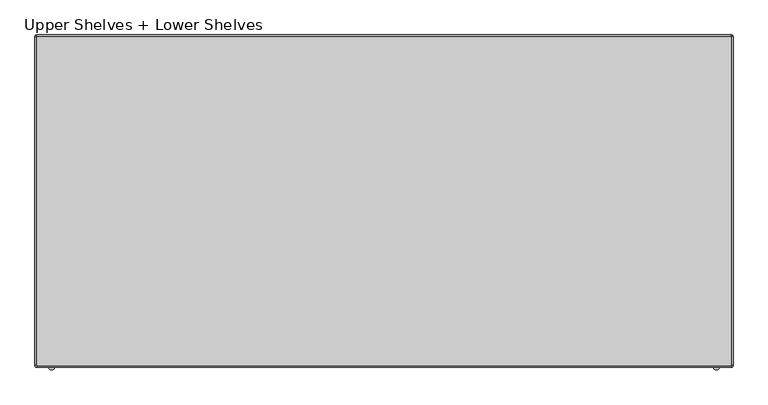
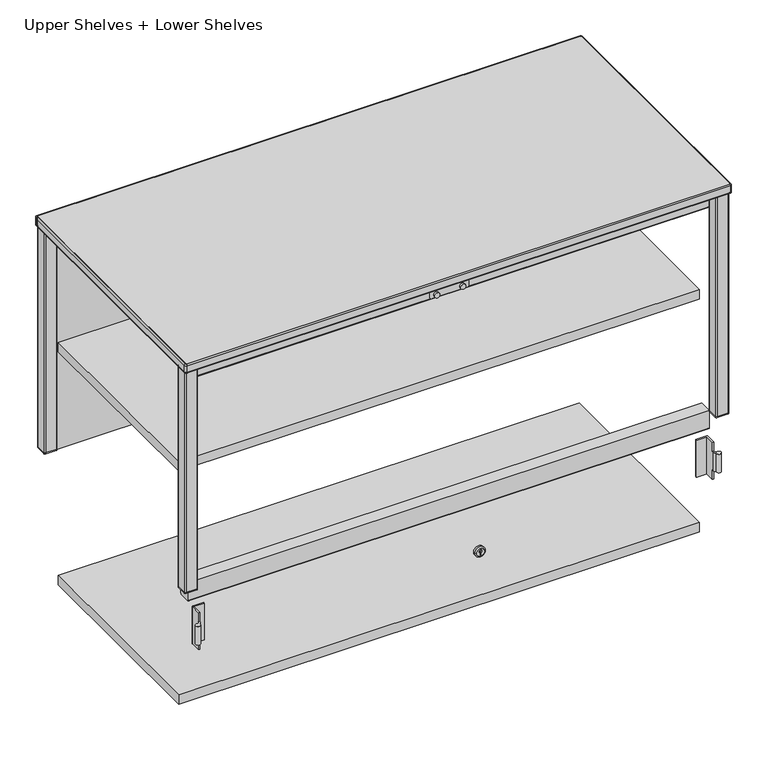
"""IFC4 building model written with IfcOpenShell, lengths in millimetres: furniture geometry, SmithSystem_AM_Storage_Education_Constellate_Stacking_LowMidCluster : Upper Shelves + Lower Shelves."""

from ifc_helpers import new_model, si_unit, point, frame, frame_2d, origin, place, context, project, spatial, polyline, circle_curve, ellipse_curve, trimmed, segment, composite_curve, outline, extrude, source, transform, mapped, element, save
from ifc_brep_helpers import plane_surface, cylinder_surface, revolved_surface, advanced_brep


def upper_shelves_lower_shelves_e5fb00db(model_context):
    return source(origin(), model_context, "Body", "SolidModel", [
        advanced_brep(
        [(-504.0801916, -251.2690212, 723.9), (-500.38, -246.38, 723.9), (-500.38, -245.11, 723.9), (-502.92, -245.11, 723.9), (-502.92, -246.38, 723.9), (-505.46, -248.92, 723.9), (-508.0, -248.92, 723.9), (-504.0801916, -251.2690212, 685.8), (-508.0, -248.92, 685.8), (-505.46, -248.92, 685.8), (-502.92, -246.38, 685.8), (-502.92, -245.11, 685.8), (-500.38, -245.11, 685.8), (-500.38, -246.38, 685.8), (-500.38, -245.11, 666.75), (-500.38, -226.06, 666.75), (-500.38, -226.06, 742.95), (-500.38, -245.11, 742.95), (-502.92, -245.11, 742.95), (-502.92, -226.06, 742.95), (-502.92, -226.06, 666.75), (-502.92, -245.11, 666.75), (-500.38, -223.52, 666.75), (-480.06, -223.52, 666.75), (-480.06, -226.06, 666.75), (-500.38, -223.52, 742.95), (-480.06, -226.06, 742.95), (-480.06, -223.52, 742.95)],
        [
            (0, 1, circle_curve(frame((-505.46, -246.38, 723.9), z_axis=(0.0, 0.0, 1.0), x_axis=(0.0, 1.0, 0.0)), 5.08)),
            (1, 2),
            (2, 3),
            (3, 4),
            (4, 5, circle_curve(frame((-505.46, -246.38, 723.9), z_axis=(0.0, 0.0, -1.0), x_axis=(0.0, 1.0, 0.0)), 2.54)),
            (5, 6),
            (6, 0, circle_curve(frame((-508.0, -253.365, 723.9), z_axis=(0.0, 0.0, 1.0), x_axis=(0.0, 1.0, 0.0)), 4.445)),
            (7, 8, circle_curve(frame((-508.0, -253.365, 685.8), z_axis=(0.0, 0.0, -1.0), x_axis=(0.0, 1.0, 0.0)), 4.445)),
            (8, 9),
            (9, 10, circle_curve(frame((-505.46, -246.38, 685.8), z_axis=(0.0, 0.0, 1.0), x_axis=(0.0, 1.0, 0.0)), 2.54)),
            (10, 11),
            (11, 12),
            (12, 13),
            (13, 7, circle_curve(frame((-505.46, -246.38, 685.8), z_axis=(0.0, 0.0, -1.0), x_axis=(0.0, 1.0, 0.0)), 5.08)),
            (0, 7),
            (13, 1),
            (12, 14),
            (14, 15),
            (15, 16),
            (16, 17),
            (17, 2),
            (10, 4),
            (3, 18),
            (18, 19),
            (19, 20),
            (20, 21),
            (21, 11),
            (9, 5),
            (8, 6),
            (22, 23),
            (23, 24),
            (24, 15),
            (14, 21),
            (20, 22, circle_curve(frame((-500.38, -226.06, 666.75), z_axis=(0.0, 0.0, -1.0), x_axis=(0.0, 1.0, 0.0)), 2.54)),
            (25, 19, circle_curve(frame((-500.38, -226.06, 742.95), z_axis=(0.0, 0.0, 1.0), x_axis=(0.0, 1.0, 0.0)), 2.54)),
            (18, 17),
            (16, 26),
            (26, 27),
            (27, 25),
            (25, 22),
            (24, 26),
            (23, 27),
        ],
        [
            plane_surface(frame((-508.0, -248.92, 723.9), z_axis=(0.0, 0.0, 1.0), x_axis=(-1.0, 0.0, 0.0))),
            plane_surface(frame((-508.0, -248.92, 685.8), z_axis=(0.0, 0.0, -1.0), x_axis=(1.0, 0.0, 0.0))),
            cylinder_surface(frame((-505.46, -246.38, 723.9), z_axis=(0.0, 0.0, -1.0), x_axis=(0.0, 1.0, 0.0)), 5.08),
            plane_surface(frame((-500.38, -236.22, 685.8), z_axis=(1.0, 0.0, 0.0), x_axis=(0.0, 0.0, 1.0))),
            plane_surface(frame((-502.92, -246.38, 685.8), z_axis=(-1.0, 0.0, 0.0), x_axis=(0.0, 0.0, 1.0))),
            revolved_surface(polyline([(-505.46, -243.84, 723.9), (-505.46, -243.84, 685.8)]), (-505.46, -246.38, 723.9), (0.0, 0.0, 1.0)),
            plane_surface(frame((-508.0, -248.92, 685.8), z_axis=(0.0, 1.0, 0.0), x_axis=(0.0, 0.0, 1.0))),
            cylinder_surface(frame((-508.0, -253.365, 723.9), z_axis=(0.0, 0.0, -1.0), x_axis=(0.0, 1.0, 0.0)), 4.445),
            plane_surface(frame((500.38, -223.52, 666.75), z_axis=(0.0, 0.0, -1.0), x_axis=(1.0, 0.0, 0.0))),
            plane_surface(frame((500.38, -223.52, 742.95), z_axis=(0.0, 0.0, 1.0), x_axis=(-1.0, 0.0, 0.0))),
            cylinder_surface(frame((-500.38, -226.06, 685.8), z_axis=(0.0, 0.0, -1.0), x_axis=(0.0, 1.0, 0.0)), 2.54),
            plane_surface(frame((-500.38, -245.11, 666.75), z_axis=(0.0, -1.0, 0.0), x_axis=(0.0, 0.0, 1.0))),
            plane_surface(frame((-480.06, -226.06, 666.75), z_axis=(0.0, -1.0, 0.0), x_axis=(0.0, 0.0, 1.0))),
            plane_surface(frame((-480.06, -223.52, 666.75), z_axis=(1.0, 0.0, 0.0), x_axis=(0.0, 0.0, 1.0))),
            plane_surface(frame((-500.38, -223.52, 666.75), z_axis=(0.0, 1.0, 0.0), x_axis=(0.0, 0.0, 1.0))),
        ],
        [
            (0, [[1, 2, 3, 4, 5, 6, 7]]),
            (1, [[8, 9, 10, 11, 12, 13, 14]]),
            (2, [[-1, 15, -14, 16]]),
            (3, [[-16, -13, 17, 18, 19, 20, 21, -2]]),
            (4, [[22, -4, 23, 24, 25, 26, 27, -11]]),
            (5, [[-5, -22, -10, 28]]),
            (6, [[-6, -28, -9, 29]]),
            (7, [[-7, -29, -8, -15]]),
            (8, [[30, 31, 32, -18, 33, -26, 34]]),
            (9, [[35, -24, 36, -20, 37, 38, 39]]),
            (10, [[-34, -25, -35, 40]]),
            (11, [[-33, -17, -12, -27]]),
            (11, [[-36, -23, -3, -21]]),
            (12, [[-32, 41, -37, -19]]),
            (13, [[-31, 42, -38, -41]]),
            (14, [[-30, -40, -39, -42]]),
        ],
    ),
        advanced_brep(
        [(504.0801916, -251.2690212, 723.9), (508.0, -248.92, 723.9), (505.46, -248.92, 723.9), (502.92, -246.38, 723.9), (502.92, -245.11, 723.9), (500.38, -245.11, 723.9), (500.38, -246.38, 723.9), (504.0801916, -251.2690212, 685.8), (500.38, -246.38, 685.8), (500.38, -245.11, 685.8), (502.92, -245.11, 685.8), (502.92, -246.38, 685.8), (505.46, -248.92, 685.8), (508.0, -248.92, 685.8), (502.92, -245.11, 666.75), (502.92, -226.06, 666.75), (502.92, -226.06, 742.95), (502.92, -245.11, 742.95), (500.38, -245.11, 742.95), (500.38, -226.06, 742.95), (500.38, -226.06, 666.75), (500.38, -245.11, 666.75), (500.38, -223.52, 666.75), (480.06, -226.06, 666.75), (480.06, -223.52, 666.75), (500.38, -223.52, 742.95), (480.06, -223.52, 742.95), (480.06, -226.06, 742.95)],
        [
            (0, 1, circle_curve(frame((508.0, -253.365, 723.9), z_axis=(0.0, 0.0, 1.0), x_axis=(0.0, 1.0, 0.0)), 4.445)),
            (1, 2),
            (2, 3, circle_curve(frame((505.46, -246.38, 723.9), z_axis=(0.0, 0.0, -1.0), x_axis=(0.0, 1.0, 0.0)), 2.54)),
            (3, 4),
            (4, 5),
            (5, 6),
            (6, 0, circle_curve(frame((505.46, -246.38, 723.9), z_axis=(0.0, 0.0, 1.0), x_axis=(0.0, 1.0, 0.0)), 5.08)),
            (7, 8, circle_curve(frame((505.46, -246.38, 685.8), z_axis=(0.0, 0.0, -1.0), x_axis=(0.0, 1.0, 0.0)), 5.08)),
            (8, 9),
            (9, 10),
            (10, 11),
            (11, 12, circle_curve(frame((505.46, -246.38, 685.8), z_axis=(0.0, 0.0, 1.0), x_axis=(0.0, 1.0, 0.0)), 2.54)),
            (12, 13),
            (13, 7, circle_curve(frame((508.0, -253.365, 685.8), z_axis=(0.0, 0.0, -1.0), x_axis=(0.0, 1.0, 0.0)), 4.445)),
            (0, 7),
            (13, 1),
            (12, 2),
            (11, 3),
            (10, 14),
            (14, 15),
            (15, 16),
            (16, 17),
            (17, 4),
            (8, 6),
            (5, 18),
            (18, 19),
            (19, 20),
            (20, 21),
            (21, 9),
            (22, 15, circle_curve(frame((500.38, -226.06, 666.75), z_axis=(0.0, 0.0, -1.0), x_axis=(0.0, 1.0, 0.0)), 2.54)),
            (14, 21),
            (20, 23),
            (23, 24),
            (24, 22),
            (25, 26),
            (26, 27),
            (27, 19),
            (18, 17),
            (16, 25, circle_curve(frame((500.38, -226.06, 742.95), z_axis=(0.0, 0.0, 1.0), x_axis=(0.0, 1.0, 0.0)), 2.54)),
            (24, 26),
            (25, 22),
            (23, 27),
        ],
        [
            plane_surface(frame((-508.0, -248.92, 723.9), z_axis=(0.0, 0.0, 1.0), x_axis=(-1.0, 0.0, 0.0))),
            plane_surface(frame((-508.0, -248.92, 685.8), z_axis=(0.0, 0.0, -1.0), x_axis=(1.0, 0.0, 0.0))),
            cylinder_surface(frame((508.0, -253.365, 666.75), z_axis=(0.0, 0.0, -1.0), x_axis=(0.0, 1.0, 0.0)), 4.445),
            plane_surface(frame((505.46, -248.92, 685.8), z_axis=(0.0, 1.0, 0.0), x_axis=(0.0, 0.0, 1.0))),
            revolved_surface(polyline([(505.46, -243.84, 723.9), (505.46, -243.84, 685.8)]), (505.46, -246.38, 666.75), (0.0, 0.0, 1.0)),
            plane_surface(frame((502.92, -236.22, 685.8), z_axis=(1.0, 0.0, 0.0), x_axis=(0.0, 0.0, 1.0))),
            plane_surface(frame((500.38, -246.38, 685.8), z_axis=(-1.0, 0.0, 0.0), x_axis=(0.0, 0.0, 1.0))),
            cylinder_surface(frame((505.46, -246.38, 666.75), z_axis=(0.0, 0.0, -1.0), x_axis=(0.0, 1.0, 0.0)), 5.08),
            plane_surface(frame((500.38, -223.52, 666.75), z_axis=(0.0, 0.0, -1.0), x_axis=(1.0, 0.0, 0.0))),
            plane_surface(frame((500.38, -223.52, 742.95), z_axis=(0.0, 0.0, 1.0), x_axis=(-1.0, 0.0, 0.0))),
            plane_surface(frame((480.06, -223.52, 666.75), z_axis=(0.0, 1.0, 0.0), x_axis=(0.0, 0.0, 1.0))),
            plane_surface(frame((480.06, -226.06, 666.75), z_axis=(-1.0, 0.0, 0.0), x_axis=(0.0, 0.0, 1.0))),
            plane_surface(frame((500.38, -226.06, 666.75), z_axis=(0.0, -1.0, 0.0), x_axis=(0.0, 0.0, 1.0))),
            plane_surface(frame((502.92, -245.11, 666.75), z_axis=(0.0, -1.0, 0.0), x_axis=(0.0, 0.0, 1.0))),
            cylinder_surface(frame((500.38, -226.06, 742.95), z_axis=(0.0, 0.0, -1.0), x_axis=(0.0, 1.0, 0.0)), 2.54),
        ],
        [
            (0, [[1, 2, 3, 4, 5, 6, 7]]),
            (1, [[8, 9, 10, 11, 12, 13, 14]]),
            (2, [[-1, 15, -14, 16]]),
            (3, [[-2, -16, -13, 17]]),
            (4, [[-3, -17, -12, 18]]),
            (5, [[-18, -11, 19, 20, 21, 22, 23, -4]]),
            (6, [[24, -6, 25, 26, 27, 28, 29, -9]]),
            (7, [[-7, -24, -8, -15]]),
            (8, [[30, -20, 31, -28, 32, 33, 34]]),
            (9, [[35, 36, 37, -26, 38, -22, 39]]),
            (10, [[-34, 40, -35, 41]]),
            (11, [[-33, 42, -36, -40]]),
            (12, [[-32, -27, -37, -42]]),
            (13, [[-31, -19, -10, -29]]),
            (13, [[-38, -25, -5, -23]]),
            (14, [[-30, -41, -39, -21]]),
        ],
    ),
        extrude(outline(composite_curve([segment(trimmed(circle_curve(frame_2d((-218.44, 1212.85)), 2.54), [point((-218.44, 1210.31))], [point((-220.98, 1212.85))], False, "CARTESIAN"), True, "CONTINUOUS"), segment(polyline([(-220.98, 1212.85), (-220.98, 1250.95), (-195.58, 1250.95), (-195.58, 1212.85)]), True, "CONTINUOUS"), segment(trimmed(circle_curve(frame_2d((-198.12, 1212.85)), 2.54), [point((-195.58, 1212.85))], [point((-198.12, 1210.31))], False, "CARTESIAN"), True, "CONTINUOUS"), segment(polyline([(-198.12, 1210.31), (-218.44, 1210.31)]), True, "CONTINUOUS")], self_intersect=False)), frame((-508.0, 0.0, 0.0), z_axis=(1.0, 0.0, 0.0), x_axis=(0.0, 1.0, 0.0)), (0.0, 0.0, 1.0), 1016.0),
        extrude(outline(composite_curve([segment(polyline([(-220.98, 791.21), (-195.58, 791.21), (-195.58, 755.65)]), True, "CONTINUOUS"), segment(trimmed(circle_curve(frame_2d((-198.12, 755.65)), 2.54), [point((-195.58, 755.65))], [point((-198.12, 753.11))], False, "CARTESIAN"), True, "CONTINUOUS"), segment(polyline([(-198.12, 753.11), (-218.44, 753.11)]), True, "CONTINUOUS"), segment(trimmed(circle_curve(frame_2d((-218.44, 755.65)), 2.54), [point((-218.44, 753.11))], [point((-220.98, 755.65))], False, "CARTESIAN"), True, "CONTINUOUS"), segment(polyline([(-220.98, 755.65), (-220.98, 791.21)]), True, "CONTINUOUS")], self_intersect=False)), frame((-508.0, 0.0, 0.0), z_axis=(1.0, 0.0, 0.0), x_axis=(0.0, 1.0, 0.0)), (0.0, 0.0, 1.0), 1016.0),
        extrude(outline(polyline([(508.0, 218.44), (508.0, -187.96), (-508.0, -187.96), (-508.0, 218.44), (508.0, 218.44)])), frame((0.0, 0.0, 521.1191), z_axis=(0.0, 0.0, 1.0), x_axis=(1.0, 0.0, 0.0)), (0.0, 0.0, 1.0), 19.05),
        extrude(outline(polyline([(508.0, 218.44), (508.0, -187.96), (-508.0, -187.96), (-508.0, 218.44), (508.0, 218.44)])), frame((0.0, 0.0, 1002.03), z_axis=(0.0, 0.0, 1.0), x_axis=(1.0, 0.0, 0.0)), (0.0, 0.0, 1.0), 19.05),
        extrude(outline(polyline([(-505.46, 228.6), (-505.46, 247.65), (505.46, 247.65), (505.46, 228.6), (-505.46, 228.6)])), frame((0.0, 0.0, 793.75), z_axis=(0.0, 0.0, 1.0), x_axis=(1.0, 0.0, 0.0)), (0.0, 0.0, 1.0), 457.2),
        extrude(outline(composite_curve([segment(polyline([(-528.32, -223.52), (-508.0, -223.52)]), True, "CONTINUOUS"), segment(trimmed(circle_curve(frame_2d((-508.0, -226.06)), 2.54), [point((-508.0, -223.52))], [point((-505.46, -226.06))], False, "CARTESIAN"), True, "CONTINUOUS"), segment(polyline([(-505.46, -226.06), (-505.46, -246.38)]), True, "CONTINUOUS"), segment(trimmed(circle_curve(frame_2d((-508.0, -246.38)), 2.54), [point((-505.46, -246.38))], [point((-508.0, -248.92))], False, "CARTESIAN"), True, "CONTINUOUS"), segment(polyline([(-508.0, -248.92), (-528.32, -248.92)]), True, "CONTINUOUS"), segment(trimmed(circle_curve(frame_2d((-528.32, -246.38)), 2.54), [point((-528.32, -248.92))], [point((-530.86, -246.38))], False, "CARTESIAN"), True, "CONTINUOUS"), segment(polyline([(-530.86, -246.38), (-530.86, -226.06)]), True, "CONTINUOUS"), segment(trimmed(circle_curve(frame_2d((-528.32, -226.06)), 2.54), [point((-530.86, -226.06))], [point((-528.32, -223.52))], False, "CARTESIAN"), True, "CONTINUOUS")], self_intersect=False)), frame((0.0, 0.0, 796.29), z_axis=(0.0, 0.0, 1.0), x_axis=(1.0, 0.0, 0.0)), (0.0, 0.0, 1.0), 454.66),
        extrude(outline(composite_curve([segment(polyline([(530.86, 248.92), (530.86, 228.6)]), True, "CONTINUOUS"), segment(trimmed(circle_curve(frame_2d((528.32, 228.6)), 2.54), [point((530.86, 228.6))], [point((528.32, 226.06))], False, "CARTESIAN"), True, "CONTINUOUS"), segment(polyline([(528.32, 226.06), (508.0, 226.06)]), True, "CONTINUOUS"), segment(trimmed(circle_curve(frame_2d((508.0, 228.6)), 2.54), [point((508.0, 226.06))], [point((505.46, 228.6))], False, "CARTESIAN"), True, "CONTINUOUS"), segment(polyline([(505.46, 228.6), (505.46, 248.92)]), True, "CONTINUOUS"), segment(trimmed(circle_curve(frame_2d((508.0, 248.92)), 2.54), [point((505.46, 248.92))], [point((508.0, 251.46))], False, "CARTESIAN"), True, "CONTINUOUS"), segment(polyline([(508.0, 251.46), (528.32, 251.46)]), True, "CONTINUOUS"), segment(trimmed(circle_curve(frame_2d((528.32, 248.92)), 2.54), [point((528.32, 251.46))], [point((530.86, 248.92))], False, "CARTESIAN"), True, "CONTINUOUS")], self_intersect=False)), frame((0.0, 0.0, 796.29), z_axis=(0.0, 0.0, 1.0), x_axis=(1.0, 0.0, 0.0)), (0.0, 0.0, 1.0), 454.66),
        extrude(outline(composite_curve([segment(trimmed(circle_curve(frame_2d((528.32, -226.06)), 2.54), [point((528.32, -223.52))], [point((530.86, -226.06))], False, "CARTESIAN"), True, "CONTINUOUS"), segment(polyline([(530.86, -226.06), (530.86, -246.38)]), True, "CONTINUOUS"), segment(trimmed(circle_curve(frame_2d((528.32, -246.38)), 2.54), [point((530.86, -246.38))], [point((528.32, -248.92))], False, "CARTESIAN"), True, "CONTINUOUS"), segment(polyline([(528.32, -248.92), (508.0, -248.92)]), True, "CONTINUOUS"), segment(trimmed(circle_curve(frame_2d((508.0, -246.38)), 2.54), [point((508.0, -248.92))], [point((505.46, -246.38))], False, "CARTESIAN"), True, "CONTINUOUS"), segment(polyline([(505.46, -246.38), (505.46, -226.06)]), True, "CONTINUOUS"), segment(trimmed(circle_curve(frame_2d((508.0, -226.06)), 2.54), [point((505.46, -226.06))], [point((508.0, -223.52))], False, "CARTESIAN"), True, "CONTINUOUS"), segment(polyline([(508.0, -223.52), (528.32, -223.52)]), True, "CONTINUOUS")], self_intersect=False)), frame((0.0, 0.0, 796.29), z_axis=(0.0, 0.0, 1.0), x_axis=(1.0, 0.0, 0.0)), (0.0, 0.0, 1.0), 454.66),
        extrude(outline(composite_curve([segment(trimmed(circle_curve(frame_2d((-528.32, 248.92)), 2.54), [point((-530.86, 248.92))], [point((-528.32, 251.46))], False, "CARTESIAN"), True, "CONTINUOUS"), segment(polyline([(-528.32, 251.46), (-508.0, 251.46)]), True, "CONTINUOUS"), segment(trimmed(circle_curve(frame_2d((-508.0, 248.92)), 2.54), [point((-508.0, 251.46))], [point((-505.46, 248.92))], False, "CARTESIAN"), True, "CONTINUOUS"), segment(polyline([(-505.46, 248.92), (-505.46, 228.6)]), True, "CONTINUOUS"), segment(trimmed(circle_curve(frame_2d((-508.0, 228.6)), 2.54), [point((-505.46, 228.6))], [point((-508.0, 226.06))], False, "CARTESIAN"), True, "CONTINUOUS"), segment(polyline([(-508.0, 226.06), (-528.32, 226.06)]), True, "CONTINUOUS"), segment(trimmed(circle_curve(frame_2d((-528.32, 228.6)), 2.54), [point((-528.32, 226.06))], [point((-530.86, 228.6))], False, "CARTESIAN"), True, "CONTINUOUS"), segment(polyline([(-530.86, 228.6), (-530.86, 248.92)]), True, "CONTINUOUS")], self_intersect=False)), frame((0.0, 0.0, 796.29), z_axis=(0.0, 0.0, 1.0), x_axis=(1.0, 0.0, 0.0)), (0.0, 0.0, 1.0), 454.66),
        extrude(outline(composite_curve([segment(polyline([(-528.32, -223.52), (-508.0, -223.52)]), True, "CONTINUOUS"), segment(trimmed(circle_curve(frame_2d((-508.0, -226.06)), 2.54), [point((-508.0, -223.52))], [point((-505.46, -226.06))], False, "CARTESIAN"), True, "CONTINUOUS"), segment(polyline([(-505.46, -226.06), (-505.46, -246.38)]), True, "CONTINUOUS"), segment(trimmed(circle_curve(frame_2d((-508.0, -246.38)), 2.54), [point((-505.46, -246.38))], [point((-508.0, -248.92))], False, "CARTESIAN"), True, "CONTINUOUS"), segment(polyline([(-508.0, -248.92), (-528.32, -248.92)]), True, "CONTINUOUS"), segment(trimmed(circle_curve(frame_2d((-528.32, -246.38)), 2.54), [point((-528.32, -248.92))], [point((-530.86, -246.38))], False, "CARTESIAN"), True, "CONTINUOUS"), segment(polyline([(-530.86, -246.38), (-530.86, -226.06)]), True, "CONTINUOUS"), segment(trimmed(circle_curve(frame_2d((-528.32, -226.06)), 2.54), [point((-530.86, -226.06))], [point((-528.32, -223.52))], False, "CARTESIAN"), True, "CONTINUOUS")], self_intersect=False)), frame((0.0, 0.0, 793.75), z_axis=(0.0, 0.0, 1.0), x_axis=(1.0, 0.0, 0.0)), (0.0, 0.0, 1.0), 2.54),
        extrude(outline(composite_curve([segment(polyline([(530.86, 248.92), (530.86, 228.6)]), True, "CONTINUOUS"), segment(trimmed(circle_curve(frame_2d((528.32, 228.6)), 2.54), [point((530.86, 228.6))], [point((528.32, 226.06))], False, "CARTESIAN"), True, "CONTINUOUS"), segment(polyline([(528.32, 226.06), (508.0, 226.06)]), True, "CONTINUOUS"), segment(trimmed(circle_curve(frame_2d((508.0, 228.6)), 2.54), [point((508.0, 226.06))], [point((505.46, 228.6))], False, "CARTESIAN"), True, "CONTINUOUS"), segment(polyline([(505.46, 228.6), (505.46, 248.92)]), True, "CONTINUOUS"), segment(trimmed(circle_curve(frame_2d((508.0, 248.92)), 2.54), [point((505.46, 248.92))], [point((508.0, 251.46))], False, "CARTESIAN"), True, "CONTINUOUS"), segment(polyline([(508.0, 251.46), (528.32, 251.46)]), True, "CONTINUOUS"), segment(trimmed(circle_curve(frame_2d((528.32, 248.92)), 2.54), [point((528.32, 251.46))], [point((530.86, 248.92))], False, "CARTESIAN"), True, "CONTINUOUS")], self_intersect=False)), frame((0.0, 0.0, 793.75), z_axis=(0.0, 0.0, 1.0), x_axis=(1.0, 0.0, 0.0)), (0.0, 0.0, 1.0), 2.54),
        extrude(outline(composite_curve([segment(trimmed(circle_curve(frame_2d((528.32, -226.06)), 2.54), [point((528.32, -223.52))], [point((530.86, -226.06))], False, "CARTESIAN"), True, "CONTINUOUS"), segment(polyline([(530.86, -226.06), (530.86, -246.38)]), True, "CONTINUOUS"), segment(trimmed(circle_curve(frame_2d((528.32, -246.38)), 2.54), [point((530.86, -246.38))], [point((528.32, -248.92))], False, "CARTESIAN"), True, "CONTINUOUS"), segment(polyline([(528.32, -248.92), (508.0, -248.92)]), True, "CONTINUOUS"), segment(trimmed(circle_curve(frame_2d((508.0, -246.38)), 2.54), [point((508.0, -248.92))], [point((505.46, -246.38))], False, "CARTESIAN"), True, "CONTINUOUS"), segment(polyline([(505.46, -246.38), (505.46, -226.06)]), True, "CONTINUOUS"), segment(trimmed(circle_curve(frame_2d((508.0, -226.06)), 2.54), [point((505.46, -226.06))], [point((508.0, -223.52))], False, "CARTESIAN"), True, "CONTINUOUS"), segment(polyline([(508.0, -223.52), (528.32, -223.52)]), True, "CONTINUOUS")], self_intersect=False)), frame((0.0, 0.0, 793.75), z_axis=(0.0, 0.0, 1.0), x_axis=(1.0, 0.0, 0.0)), (0.0, 0.0, 1.0), 2.54),
        extrude(outline(composite_curve([segment(trimmed(circle_curve(frame_2d((-528.32, 248.92)), 2.54), [point((-530.86, 248.92))], [point((-528.32, 251.46))], False, "CARTESIAN"), True, "CONTINUOUS"), segment(polyline([(-528.32, 251.46), (-508.0, 251.46)]), True, "CONTINUOUS"), segment(trimmed(circle_curve(frame_2d((-508.0, 248.92)), 2.54), [point((-508.0, 251.46))], [point((-505.46, 248.92))], False, "CARTESIAN"), True, "CONTINUOUS"), segment(polyline([(-505.46, 248.92), (-505.46, 228.6)]), True, "CONTINUOUS"), segment(trimmed(circle_curve(frame_2d((-508.0, 228.6)), 2.54), [point((-505.46, 228.6))], [point((-508.0, 226.06))], False, "CARTESIAN"), True, "CONTINUOUS"), segment(polyline([(-508.0, 226.06), (-528.32, 226.06)]), True, "CONTINUOUS"), segment(trimmed(circle_curve(frame_2d((-528.32, 228.6)), 2.54), [point((-528.32, 226.06))], [point((-530.86, 228.6))], False, "CARTESIAN"), True, "CONTINUOUS"), segment(polyline([(-530.86, 228.6), (-530.86, 248.92)]), True, "CONTINUOUS")], self_intersect=False)), frame((0.0, 0.0, 793.75), z_axis=(0.0, 0.0, 1.0), x_axis=(1.0, 0.0, 0.0)), (0.0, 0.0, 1.0), 2.54),
        extrude(outline(composite_curve([segment(polyline([(-530.86, -250.952), (-530.86, 250.952)]), True, "CONTINUOUS"), segment(trimmed(circle_curve(frame_2d((-530.352, 250.952)), 0.508), [point((-530.86, 250.952))], [point((-530.352, 251.46))], False, "CARTESIAN"), True, "CONTINUOUS"), segment(polyline([(-530.352, 251.46), (530.352, 251.46)]), True, "CONTINUOUS"), segment(trimmed(circle_curve(frame_2d((530.352, 250.952)), 0.508), [point((530.352, 251.46))], [point((530.86, 250.952))], False, "CARTESIAN"), True, "CONTINUOUS"), segment(polyline([(530.86, 250.952), (530.86, -250.952)]), True, "CONTINUOUS"), segment(trimmed(circle_curve(frame_2d((530.352, -250.952)), 0.508), [point((530.86, -250.952))], [point((530.352, -251.46))], False, "CARTESIAN"), True, "CONTINUOUS"), segment(polyline([(530.352, -251.46), (-530.352, -251.46)]), True, "CONTINUOUS"), segment(trimmed(circle_curve(frame_2d((-530.352, -250.952)), 0.508), [point((-530.352, -251.46))], [point((-530.86, -250.952))], False, "CARTESIAN"), True, "CONTINUOUS")], self_intersect=False)), frame((0.0, 0.0, 1250.95), z_axis=(0.0, 0.0, 1.0), x_axis=(1.0, 0.0, 0.0)), (0.0, 0.0, 1.0), 19.05),
        advanced_brep(
        [(-530.352, -251.46, 1270.0), (-530.86, -250.952, 1270.0), (-533.4, -250.952, 1267.46), (-530.352, -254.0, 1267.46), (-530.352, -251.46, 1250.95), (-530.86, -250.952, 1250.95), (-530.352, -254.0, 1253.49), (-533.4, -250.952, 1253.49), (530.352, -254.0, 1267.46), (530.352, -251.46, 1270.0), (530.352, -251.46, 1250.95), (530.352, -254.0, 1253.49), (530.86, -250.952, 1270.0), (533.4, -250.952, 1267.46), (530.86, -250.952, 1250.95), (533.4, -250.952, 1253.49), (533.4, 250.952, 1267.46), (530.86, 250.952, 1270.0), (530.86, 250.952, 1250.95), (533.4, 250.952, 1253.49), (530.352, 251.46, 1270.0), (530.352, 254.0, 1267.46), (530.352, 251.46, 1250.95), (530.352, 254.0, 1253.49), (-530.352, 254.0, 1267.46), (-530.352, 251.46, 1270.0), (-530.352, 251.46, 1250.95), (-530.352, 254.0, 1253.49), (-530.86, 250.952, 1270.0), (-533.4, 250.952, 1267.46), (-530.86, 250.952, 1250.95), (-533.4, 250.952, 1253.49)],
        [
            (0, 1, circle_curve(frame((-530.352, -250.952, 1270.0), z_axis=(0.0, 0.0, -1.0), x_axis=(-1.0, 0.0, 0.0)), 0.508)),
            (1, 2, circle_curve(frame((-530.86, -250.952, 1267.46), z_axis=(0.0, -1.0, 0.0), x_axis=(1.0, 0.0, 0.0)), 2.54)),
            (2, 3, circle_curve(frame((-530.352, -250.952, 1267.46), z_axis=(0.0, 0.0, 1.0), x_axis=(-1.0, 0.0, 0.0)), 3.048)),
            (3, 0, circle_curve(frame((-530.352, -251.46, 1267.46), z_axis=(-1.0, 0.0, 0.0), x_axis=(0.0, 1.0, 0.0)), 2.54)),
            (4, 5, circle_curve(frame((-530.352, -250.952, 1250.95), z_axis=(0.0, 0.0, -1.0), x_axis=(-1.0, 0.0, 0.0)), 0.508)),
            (5, 1),
            (0, 4),
            (6, 7, circle_curve(frame((-530.352, -250.952, 1253.49), z_axis=(0.0, 0.0, -1.0), x_axis=(-1.0, 0.0, 0.0)), 3.048)),
            (7, 5, circle_curve(frame((-530.86, -250.952, 1253.49), z_axis=(0.0, -1.0, 0.0), x_axis=(1.0, 0.0, 0.0)), 2.54)),
            (4, 6, circle_curve(frame((-530.352, -251.46, 1253.49), z_axis=(-1.0, 0.0, 0.0), x_axis=(0.0, 1.0, 0.0)), 2.54)),
            (2, 7),
            (6, 3),
            (3, 8),
            (8, 9, circle_curve(frame((530.352, -251.46, 1267.46), z_axis=(-1.0, 0.0, 0.0), x_axis=(0.0, 1.0, 0.0)), 2.54)),
            (9, 0),
            (9, 10),
            (10, 4),
            (10, 11, circle_curve(frame((530.352, -251.46, 1253.49), z_axis=(-1.0, 0.0, 0.0), x_axis=(0.0, 1.0, 0.0)), 2.54)),
            (11, 6),
            (11, 8),
            (12, 9, circle_curve(frame((530.352, -250.952, 1270.0), z_axis=(0.0, 0.0, -1.0), x_axis=(0.0, -1.0, 0.0)), 0.508)),
            (8, 13, circle_curve(frame((530.352, -250.952, 1267.46), z_axis=(0.0, 0.0, 1.0), x_axis=(0.0, -1.0, 0.0)), 3.048)),
            (13, 12, circle_curve(frame((530.86, -250.952, 1267.46), z_axis=(0.0, -1.0, 0.0), x_axis=(-1.0, 0.0, 0.0)), 2.54)),
            (14, 10, circle_curve(frame((530.352, -250.952, 1250.95), z_axis=(0.0, 0.0, -1.0), x_axis=(0.0, -1.0, 0.0)), 0.508)),
            (12, 14),
            (15, 11, circle_curve(frame((530.352, -250.952, 1253.49), z_axis=(0.0, 0.0, -1.0), x_axis=(0.0, -1.0, 0.0)), 3.048)),
            (14, 15, circle_curve(frame((530.86, -250.952, 1253.49), z_axis=(0.0, -1.0, 0.0), x_axis=(-1.0, 0.0, 0.0)), 2.54)),
            (15, 13),
            (13, 16),
            (16, 17, circle_curve(frame((530.86, 250.952, 1267.46), z_axis=(0.0, -1.0, 0.0), x_axis=(-1.0, 0.0, 0.0)), 2.54)),
            (17, 12),
            (17, 18),
            (18, 14),
            (18, 19, circle_curve(frame((530.86, 250.952, 1253.49), z_axis=(0.0, -1.0, 0.0), x_axis=(-1.0, 0.0, 0.0)), 2.54)),
            (19, 15),
            (19, 16),
            (20, 17, circle_curve(frame((530.352, 250.952, 1270.0), z_axis=(0.0, 0.0, -1.0), x_axis=(1.0, 0.0, 0.0)), 0.508)),
            (16, 21, circle_curve(frame((530.352, 250.952, 1267.46), z_axis=(0.0, 0.0, 1.0), x_axis=(1.0, 0.0, 0.0)), 3.048)),
            (21, 20, circle_curve(frame((530.352, 251.46, 1267.46), z_axis=(1.0, 0.0, 0.0), x_axis=(0.0, -1.0, 0.0)), 2.54)),
            (22, 18, circle_curve(frame((530.352, 250.952, 1250.95), z_axis=(0.0, 0.0, -1.0), x_axis=(1.0, 0.0, 0.0)), 0.508)),
            (20, 22),
            (23, 19, circle_curve(frame((530.352, 250.952, 1253.49), z_axis=(0.0, 0.0, -1.0), x_axis=(1.0, 0.0, 0.0)), 3.048)),
            (22, 23, circle_curve(frame((530.352, 251.46, 1253.49), z_axis=(1.0, 0.0, 0.0), x_axis=(0.0, -1.0, 0.0)), 2.54)),
            (23, 21),
            (21, 24),
            (24, 25, circle_curve(frame((-530.352, 251.46, 1267.46), z_axis=(1.0, 0.0, 0.0), x_axis=(0.0, -1.0, 0.0)), 2.54)),
            (25, 20),
            (25, 26),
            (26, 22),
            (26, 27, circle_curve(frame((-530.352, 251.46, 1253.49), z_axis=(1.0, 0.0, 0.0), x_axis=(0.0, -1.0, 0.0)), 2.54)),
            (27, 23),
            (27, 24),
            (28, 25, circle_curve(frame((-530.352, 250.952, 1270.0), z_axis=(0.0, 0.0, -1.0), x_axis=(0.0, 1.0, 0.0)), 0.508)),
            (24, 29, circle_curve(frame((-530.352, 250.952, 1267.46), z_axis=(0.0, 0.0, 1.0), x_axis=(0.0, 1.0, 0.0)), 3.048)),
            (29, 28, circle_curve(frame((-530.86, 250.952, 1267.46), z_axis=(0.0, 1.0, 0.0), x_axis=(1.0, 0.0, 0.0)), 2.54)),
            (30, 26, circle_curve(frame((-530.352, 250.952, 1250.95), z_axis=(0.0, 0.0, -1.0), x_axis=(0.0, 1.0, 0.0)), 0.508)),
            (28, 30),
            (31, 27, circle_curve(frame((-530.352, 250.952, 1253.49), z_axis=(0.0, 0.0, -1.0), x_axis=(0.0, 1.0, 0.0)), 3.048)),
            (30, 31, circle_curve(frame((-530.86, 250.952, 1253.49), z_axis=(0.0, 1.0, 0.0), x_axis=(1.0, 0.0, 0.0)), 2.54)),
            (31, 29),
            (29, 2),
            (1, 28),
            (5, 30),
            (7, 31),
        ],
        [
            revolved_surface(trimmed(ellipse_curve(frame((-530.86, -250.952, 1267.46), z_axis=(0.0, 1.0, 0.0), x_axis=(1.0, 0.0, 0.0)), 2.54, 2.54), [point((-533.4, -250.952, 1267.46))], [point((-530.86, -250.952, 1270.0))], True, "CARTESIAN"), (-530.352, -250.952, 0.0), (0.0, 0.0, 1.0)),
            revolved_surface(polyline([(-530.86, -250.952, 1270.0), (-530.86, -250.952, 1250.95)]), (-530.352, -250.952, 0.0), (0.0, 0.0, 1.0)),
            revolved_surface(trimmed(ellipse_curve(frame((-530.86, -250.952, 1253.49), z_axis=(0.0, 1.0, 0.0), x_axis=(1.0, 0.0, 0.0)), 2.54, 2.54), [point((-530.86, -250.952, 1250.95))], [point((-533.4, -250.952, 1253.49))], True, "CARTESIAN"), (-530.352, -250.952, 0.0), (0.0, 0.0, 1.0)),
            cylinder_surface(frame((-530.352, -250.952, 0.0), z_axis=(0.0, 0.0, 1.0), x_axis=(-1.0, 0.0, 0.0)), 3.048),
            cylinder_surface(frame((-530.352, -251.46, 1267.46), z_axis=(-1.0, 0.0, 0.0), x_axis=(0.0, 1.0, 0.0)), 2.54),
            plane_surface(frame((-530.352, -251.46, 1270.0), z_axis=(0.0, 1.0, 0.0), x_axis=(1.0, 0.0, 0.0))),
            cylinder_surface(frame((-530.352, -251.46, 1253.49), z_axis=(-1.0, 0.0, 0.0), x_axis=(0.0, 1.0, 0.0)), 2.54),
            plane_surface(frame((-530.352, -254.0, 1253.49), z_axis=(0.0, -1.0, 0.0), x_axis=(1.0, 0.0, 0.0))),
            revolved_surface(trimmed(ellipse_curve(frame((530.352, -251.46, 1267.46), z_axis=(-1.0, 0.0, 0.0), x_axis=(0.0, 1.0, 0.0)), 2.54, 2.54), [point((530.352, -254.0, 1267.46))], [point((530.352, -251.46, 1270.0))], True, "CARTESIAN"), (530.352, -250.952, 0.0), (0.0, 0.0, 1.0)),
            revolved_surface(polyline([(530.352, -251.46, 1270.0), (530.352, -251.46, 1250.95)]), (530.352, -250.952, 0.0), (0.0, 0.0, 1.0)),
            revolved_surface(trimmed(ellipse_curve(frame((530.352, -251.46, 1253.49), z_axis=(-1.0, 0.0, 0.0), x_axis=(0.0, 1.0, 0.0)), 2.54, 2.54), [point((530.352, -251.46, 1250.95))], [point((530.352, -254.0, 1253.49))], True, "CARTESIAN"), (530.352, -250.952, 0.0), (0.0, 0.0, 1.0)),
            cylinder_surface(frame((530.352, -250.952, 0.0), z_axis=(0.0, 0.0, 1.0), x_axis=(0.0, -1.0, 0.0)), 3.048),
            cylinder_surface(frame((530.86, -250.952, 1267.46), z_axis=(0.0, -1.0, 0.0), x_axis=(-1.0, 0.0, 0.0)), 2.54),
            plane_surface(frame((530.86, -250.952, 1270.0), z_axis=(-1.0, 0.0, 0.0), x_axis=(0.0, 1.0, 0.0))),
            cylinder_surface(frame((530.86, -250.952, 1253.49), z_axis=(0.0, -1.0, 0.0), x_axis=(-1.0, 0.0, 0.0)), 2.54),
            plane_surface(frame((533.4, -250.952, 1253.49), z_axis=(1.0, 0.0, 0.0), x_axis=(0.0, 1.0, 0.0))),
            revolved_surface(trimmed(ellipse_curve(frame((530.86, 250.952, 1267.46), z_axis=(0.0, -1.0, 0.0), x_axis=(-1.0, 0.0, 0.0)), 2.54, 2.54), [point((533.4, 250.952, 1267.46))], [point((530.86, 250.952, 1270.0))], True, "CARTESIAN"), (530.352, 250.952, 0.0), (0.0, 0.0, 1.0)),
            revolved_surface(polyline([(530.86, 250.952, 1270.0), (530.86, 250.952, 1250.95)]), (530.352, 250.952, 0.0), (0.0, 0.0, 1.0)),
            revolved_surface(trimmed(ellipse_curve(frame((530.86, 250.952, 1253.49), z_axis=(0.0, -1.0, 0.0), x_axis=(-1.0, 0.0, 0.0)), 2.54, 2.54), [point((530.86, 250.952, 1250.95))], [point((533.4, 250.952, 1253.49))], True, "CARTESIAN"), (530.352, 250.952, 0.0), (0.0, 0.0, 1.0)),
            cylinder_surface(frame((530.352, 250.952, 0.0), z_axis=(0.0, 0.0, 1.0), x_axis=(1.0, 0.0, 0.0)), 3.048),
            cylinder_surface(frame((530.352, 251.46, 1267.46), z_axis=(1.0, 0.0, 0.0), x_axis=(0.0, -1.0, 0.0)), 2.54),
            plane_surface(frame((530.352, 251.46, 1270.0), z_axis=(0.0, -1.0, 0.0), x_axis=(-1.0, 0.0, 0.0))),
            cylinder_surface(frame((530.352, 251.46, 1253.49), z_axis=(1.0, 0.0, 0.0), x_axis=(0.0, -1.0, 0.0)), 2.54),
            plane_surface(frame((530.352, 254.0, 1253.49), z_axis=(0.0, 1.0, 0.0), x_axis=(-1.0, 0.0, 0.0))),
            revolved_surface(trimmed(ellipse_curve(frame((-530.352, 251.46, 1267.46), z_axis=(1.0, 0.0, 0.0), x_axis=(0.0, -1.0, 0.0)), 2.54, 2.54), [point((-530.352, 254.0, 1267.46))], [point((-530.352, 251.46, 1270.0))], True, "CARTESIAN"), (-530.352, 250.952, 0.0), (0.0, 0.0, 1.0)),
            revolved_surface(polyline([(-530.352, 251.46, 1270.0), (-530.352, 251.46, 1250.95)]), (-530.352, 250.952, 0.0), (0.0, 0.0, 1.0)),
            revolved_surface(trimmed(ellipse_curve(frame((-530.352, 251.46, 1253.49), z_axis=(1.0, 0.0, 0.0), x_axis=(0.0, -1.0, 0.0)), 2.54, 2.54), [point((-530.352, 251.46, 1250.95))], [point((-530.352, 254.0, 1253.49))], True, "CARTESIAN"), (-530.352, 250.952, 0.0), (0.0, 0.0, 1.0)),
            cylinder_surface(frame((-530.352, 250.952, 0.0), z_axis=(0.0, 0.0, 1.0), x_axis=(0.0, 1.0, 0.0)), 3.048),
            cylinder_surface(frame((-530.86, 250.952, 1267.46), z_axis=(0.0, 1.0, 0.0), x_axis=(1.0, 0.0, 0.0)), 2.54),
            plane_surface(frame((-530.86, 250.952, 1270.0), z_axis=(1.0, 0.0, 0.0), x_axis=(0.0, -1.0, 0.0))),
            cylinder_surface(frame((-530.86, 250.952, 1253.49), z_axis=(0.0, 1.0, 0.0), x_axis=(1.0, 0.0, 0.0)), 2.54),
            plane_surface(frame((-533.4, 250.952, 1253.49), z_axis=(-1.0, 0.0, 0.0), x_axis=(0.0, -1.0, 0.0))),
        ],
        [
            (0, [[1, 2, 3, 4]]),
            (1, [[5, 6, -1, 7]]),
            (2, [[8, 9, -5, 10]]),
            (3, [[-3, 11, -8, 12]]),
            (4, [[-4, 13, 14, 15]]),
            (5, [[-7, -15, 16, 17]]),
            (6, [[-10, -17, 18, 19]]),
            (7, [[-12, -19, 20, -13]]),
            (8, [[21, -14, 22, 23]]),
            (9, [[24, -16, -21, 25]]),
            (10, [[26, -18, -24, 27]]),
            (11, [[-22, -20, -26, 28]]),
            (12, [[-23, 29, 30, 31]]),
            (13, [[-25, -31, 32, 33]]),
            (14, [[-27, -33, 34, 35]]),
            (15, [[-28, -35, 36, -29]]),
            (16, [[37, -30, 38, 39]]),
            (17, [[40, -32, -37, 41]]),
            (18, [[42, -34, -40, 43]]),
            (19, [[-38, -36, -42, 44]]),
            (20, [[-39, 45, 46, 47]]),
            (21, [[-41, -47, 48, 49]]),
            (22, [[-43, -49, 50, 51]]),
            (23, [[-44, -51, 52, -45]]),
            (24, [[53, -46, 54, 55]]),
            (25, [[56, -48, -53, 57]]),
            (26, [[58, -50, -56, 59]]),
            (27, [[-54, -52, -58, 60]]),
            (28, [[-55, 61, -2, 62]]),
            (29, [[-57, -62, -6, 63]]),
            (30, [[-59, -63, -9, 64]]),
            (31, [[-60, -64, -11, -61]]),
        ],
    ),
        extrude(outline(composite_curve([segment(trimmed(circle_curve(frame_2d((1219.2, -25.4)), 5.08), [point((1219.2, -20.32))], [point((1219.2, -30.48))], False, "CARTESIAN"), True, "CONTINUOUS"), segment(trimmed(circle_curve(frame_2d((1219.2, -25.4)), 5.08), [point((1219.2, -30.48))], [point((1219.2, -20.32))], False, "CARTESIAN"), True, "CONTINUOUS")], self_intersect=False)), frame((0.0, -226.06, 0.0), z_axis=(0.0, 1.0, 0.0), x_axis=(0.0, 0.0, 1.0)), (0.0, 0.0, 1.0), 5.08),
        extrude(outline(composite_curve([segment(trimmed(circle_curve(frame_2d((1219.2, 25.4)), 5.08), [point((1219.2, 30.48))], [point((1219.2, 20.32))], False, "CARTESIAN"), True, "CONTINUOUS"), segment(trimmed(circle_curve(frame_2d((1219.2, 25.4)), 5.08), [point((1219.2, 20.32))], [point((1219.2, 30.48))], False, "CARTESIAN"), True, "CONTINUOUS")], self_intersect=False)), frame((0.0, -226.06, 0.0), z_axis=(0.0, 1.0, 0.0), x_axis=(0.0, 0.0, 1.0)), (0.0, 0.0, 1.0), 5.08),
        extrude(outline(composite_curve([segment(polyline([(1238.25, 34.29), (1238.25, -34.29)]), True, "CONTINUOUS"), segment(trimmed(circle_curve(frame_2d((1234.44, -34.29)), 3.81), [point((1238.25, -34.29))], [point((1234.44, -38.1))], False, "CARTESIAN"), True, "CONTINUOUS"), segment(polyline([(1234.44, -38.1), (1216.66, -38.1)]), True, "CONTINUOUS"), segment(trimmed(circle_curve(frame_2d((1216.66, -34.29)), 3.81), [point((1216.66, -38.1))], [point((1212.85, -34.29))], False, "CARTESIAN"), True, "CONTINUOUS"), segment(polyline([(1212.85, -34.29), (1212.85, 34.29)]), True, "CONTINUOUS"), segment(trimmed(circle_curve(frame_2d((1216.66, 34.29)), 3.81), [point((1212.85, 34.29))], [point((1216.66, 38.1))], False, "CARTESIAN"), True, "CONTINUOUS"), segment(polyline([(1216.66, 38.1), (1234.44, 38.1)]), True, "CONTINUOUS"), segment(trimmed(circle_curve(frame_2d((1234.44, 34.29)), 3.81), [point((1234.44, 38.1))], [point((1238.25, 34.29))], False, "CARTESIAN"), True, "CONTINUOUS")], self_intersect=False)), frame((0.0, -222.25, 0.0), z_axis=(0.0, 1.0, 0.0), x_axis=(0.0, 0.0, 1.0)), (0.0, 0.0, 1.0), 1.27),
        extrude(outline(composite_curve([segment(trimmed(circle_curve(frame_2d((679.45, 44.45)), 7.62), [point((687.07, 44.45))], [point((671.83, 44.45))], False, "CARTESIAN"), True, "CONTINUOUS"), segment(trimmed(circle_curve(frame_2d((679.45, 44.45)), 7.62), [point((671.83, 44.45))], [point((687.07, 44.45))], False, "CARTESIAN"), True, "CONTINUOUS")], self_intersect=False), holes=[composite_curve([segment(trimmed(circle_curve(frame_2d((681.9093444, 44.45)), 2.54), [point((679.45, 43.815))], [point((679.45, 45.085))], True, "CARTESIAN"), True, "CONTINUOUS"), segment(polyline([(679.45, 45.085), (674.2893444, 45.085), (674.2893444, 43.815), (679.45, 43.815)]), True, "CONTINUOUS")], self_intersect=False)]), frame((0.0, -251.46, 0.0), z_axis=(0.0, 1.0, 0.0), x_axis=(0.0, 0.0, 1.0)), (0.0, 0.0, 1.0), 2.54),
        advanced_brep(
        [(44.45, -245.11, 679.45), (54.61, -245.11, 679.45), (34.29, -245.11, 679.45), (36.83, -248.92, 679.45), (52.07, -248.92, 679.45), (44.45, -248.92, 679.45), (36.83, -251.46, 679.45), (52.07, -251.46, 679.45), (34.29, -248.92, 679.45), (54.61, -248.92, 679.45)],
        [
            (0, 1),
            (1, 2, circle_curve(frame((44.45, -245.11, 679.45), z_axis=(0.0, 1.0, 0.0), x_axis=(1.0, 0.0, 0.0)), 10.16)),
            (2, 0),
            (2, 1, circle_curve(frame((44.45, -245.11, 679.45), z_axis=(0.0, 1.0, 0.0), x_axis=(1.0, 0.0, 0.0)), 10.16)),
            (3, 4, circle_curve(frame((44.45, -248.92, 679.45), z_axis=(0.0, -1.0, 0.0), x_axis=(1.0, 0.0, 0.0)), 7.62)),
            (4, 5),
            (5, 3),
            (4, 3, circle_curve(frame((44.45, -248.92, 679.45), z_axis=(0.0, -1.0, 0.0), x_axis=(1.0, 0.0, 0.0)), 7.62)),
            (6, 7, circle_curve(frame((44.45, -251.46, 679.45), z_axis=(0.0, -1.0, 0.0), x_axis=(1.0, 0.0, 0.0)), 7.62)),
            (7, 4),
            (3, 6),
            (7, 6, circle_curve(frame((44.45, -251.46, 679.45), z_axis=(0.0, -1.0, 0.0), x_axis=(1.0, 0.0, 0.0)), 7.62)),
            (8, 9, circle_curve(frame((44.45, -248.92, 679.45), z_axis=(0.0, -1.0, 0.0), x_axis=(1.0, 0.0, 0.0)), 10.16)),
            (9, 7, circle_curve(frame((52.07, -248.92, 679.45), z_axis=(0.0, 0.0, -1.0), x_axis=(0.0, 1.0, 0.0)), 2.54)),
            (6, 8, circle_curve(frame((36.83, -248.92, 679.45), z_axis=(0.0, 0.0, -1.0), x_axis=(0.0, 1.0, 0.0)), 2.54)),
            (9, 8, circle_curve(frame((44.45, -248.92, 679.45), z_axis=(0.0, -1.0, 0.0), x_axis=(1.0, 0.0, 0.0)), 10.16)),
            (1, 9),
            (8, 2),
        ],
        [
            plane_surface(frame((44.45, -245.11, 679.45), z_axis=(0.0, 1.0, 0.0), x_axis=(1.0, 0.0, 0.0))),
            plane_surface(frame((44.45, -248.92, 679.45), z_axis=(0.0, -1.0, 0.0), x_axis=(1.0, 0.0, 0.0))),
            revolved_surface(polyline([(52.07, -248.92, 679.45), (52.07, -251.46, 679.45)]), (44.45, -242.6013541, 679.45), (0.0, 1.0, 0.0)),
            revolved_surface(trimmed(ellipse_curve(frame((52.07, -248.92, 679.45), z_axis=(0.0, 0.0, 1.0), x_axis=(0.0, 1.0, 0.0)), 2.54, 2.54), [point((52.07, -251.46, 679.45))], [point((54.61, -248.92, 679.45))], True, "CARTESIAN"), (44.45, -242.6013541, 679.45), (0.0, 1.0, 0.0)),
            cylinder_surface(frame((44.45, -242.6013541, 679.45), z_axis=(0.0, 1.0, 0.0), x_axis=(1.0, 0.0, 0.0)), 10.16),
        ],
        [
            (0, [[1, 2, 3]]),
            (0, [[-3, 4, -1]]),
            (1, [[5, 6, 7]]),
            (1, [[8, -7, -6]]),
            (2, [[9, 10, -5, 11]]),
            (2, [[12, -11, -8, -10]]),
            (3, [[13, 14, -9, 15]]),
            (3, [[16, -15, -12, -14]]),
            (4, [[-2, 17, -13, 18]]),
            (4, [[-4, -18, -16, -17]]),
        ],
    ),
    ])


if __name__ == "__main__":
    model = new_model("IFC4")
    model_context = context("Model", 3, world=origin())
    ifc_project = project(units=[si_unit("LENGTHUNIT", "METRE", prefix="MILLI")], contexts=[model_context])
    site = spatial("IfcSite", under=ifc_project)
    building = spatial("IfcBuilding", under=site)
    placement = place(None, origin())
    upper_shelves_lower_shelves_shape = upper_shelves_lower_shelves_e5fb00db(model_context)
    element("IfcFurniture", 1, ObjectType="SmithSystem_AM_Storage_Education_Constellate_Stacking_LowMidCluster : Upper Shelves + Lower Shelves", at=placement, inside=building, context=model_context, shape_type="MappedRepresentation", body=[
        mapped(upper_shelves_lower_shelves_shape, transform((0.0, 0.0, 0.0), x_axis=(1.0, 0.0, 0.0), y_axis=(0.0, 1.0, 0.0), z_axis=(0.0, 0.0, 1.0))),
    ])
    save(model, "model.ifc")
